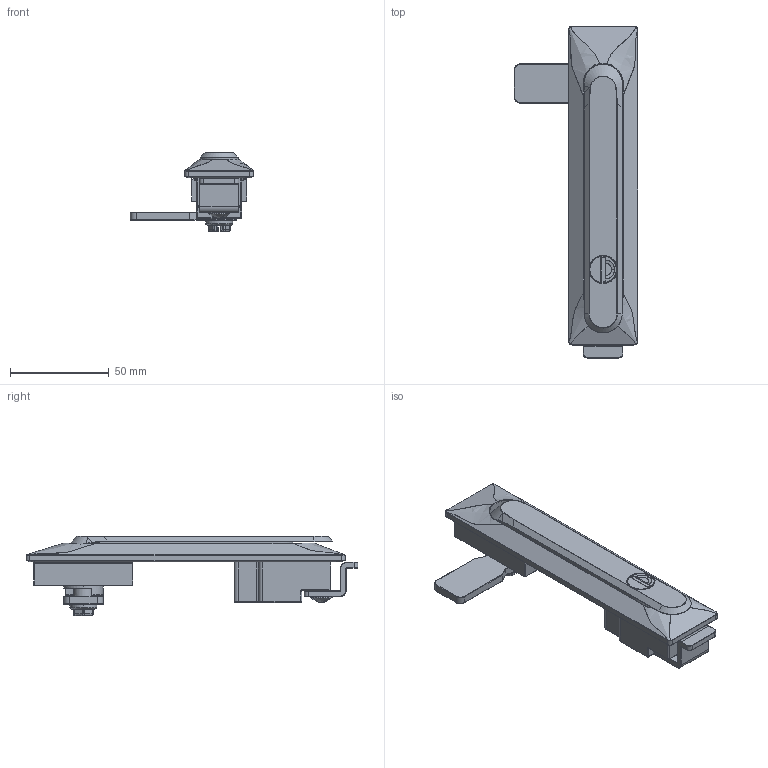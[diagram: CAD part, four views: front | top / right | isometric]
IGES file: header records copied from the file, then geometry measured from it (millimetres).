
Start section: SolidWorks IGES file using analytic representation for surfaces
Bounding box: 62.5 x 168.18 x 40.3 mm (x, y, z)
Surface area: 46782.7 mm2 (no closed solid volume)
Topology: 0 solids, 0 shells, 887 faces, 7960 edges, 7882 vertices
Faces by surface type: bspline 499, revolution 388
